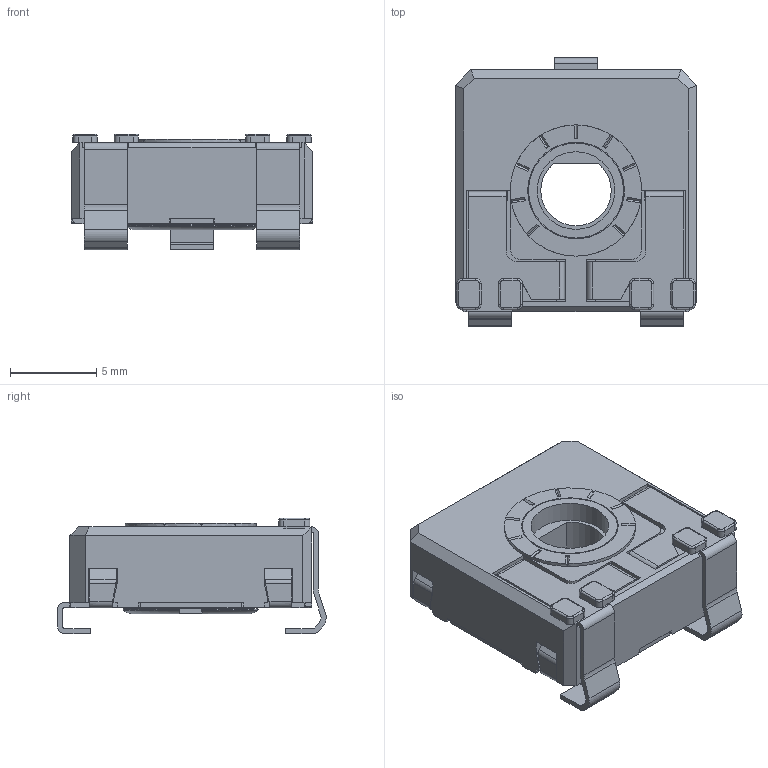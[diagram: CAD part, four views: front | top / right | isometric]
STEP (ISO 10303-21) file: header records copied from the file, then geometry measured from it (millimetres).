
FILE_DESCRIPTION(/* description */ (''),/* implementation_level */ '2;1');
FILE_NAME(/* name */ 'C:\Users\CEM\Desktop\ENVIAR\TRANSICION 3D CATALOGOS\RS14DVSMD.stp',/* time_stamp */ '2025-12-10T12:18:42+01:00',/* author */ ('CEM'),/* organization */ (''),/* preprocessor_version */ 'ST-DEVELOPER v16.13',/* originating_system */ 'Autodesk Inventor 2018',/* authorisation */ '');
FILE_SCHEMA (('AUTOMOTIVE_DESIGN { 1 0 10303 214 3 1 1 }'));
Length unit declared in the file: millimetre
Products named in the file (1): CARCASA CA14 PGA
Bounding box: 14 x 15.55 x 6.7 mm (x, y, z)
Volume: 526.1 mm3; surface area: 1456.5 mm2
Topology: 1 solids, 1 shells, 547 faces, 1542 edges, 983 vertices
Faces by surface type: plane 405, cylinder 105, torus 23, bspline 8, cone 6
Full cylindrical faces by diameter (mm): 4.5 x1, 5.1 x1, 5.5 x1, 5.6 x1, 5.752 x1, 6.8 x1, 7.6 x1
Entity records: 17738 total; most frequent: CARTESIAN_POINT 3262, ORIENTED_EDGE 3050, DIRECTION 2870, EDGE_CURVE 1525, LINE 1204, VECTOR 1204, VERTEX_POINT 977, AXIS2_PLACEMENT_3D 833
